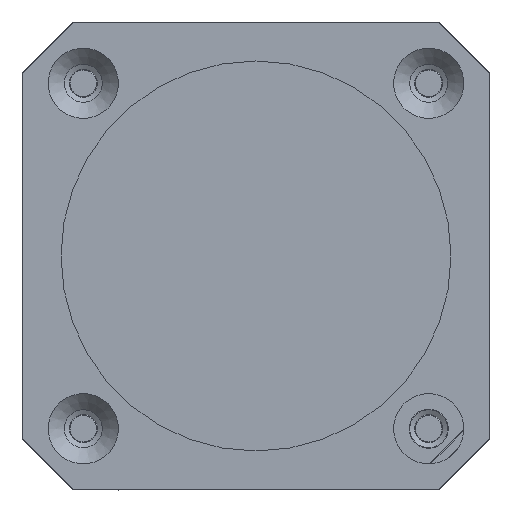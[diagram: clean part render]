
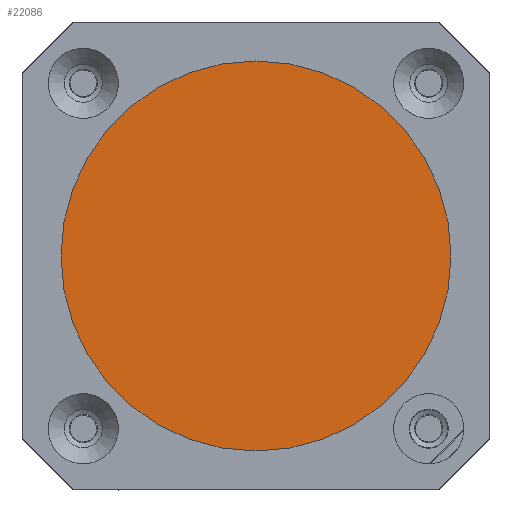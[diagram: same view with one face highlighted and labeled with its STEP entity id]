
A CAD part, front view. The second image highlights one B-rep face of the part: STEP entity #22086.
In plain terms, the highlighted planar face has unit normal (0, -1, 0) as drawn and (0, 0, -1) by its records, which use the part's own axes.
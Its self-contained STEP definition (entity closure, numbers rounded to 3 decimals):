
#895=CIRCLE('',#23804,17.5);
#2708=FACE_OUTER_BOUND('',#4138,.T.);
#4138=EDGE_LOOP('',(#15469));
#9706=VERTEX_POINT('',#34394);
#11798=EDGE_CURVE('',#9706,#9706,#895,.T.);
#15469=ORIENTED_EDGE('',*,*,#11798,.F.);
#21210=PLANE('',#23817);
#22086=ADVANCED_FACE('',(#2708),#21210,.T.);
#23804=AXIS2_PLACEMENT_3D('',#34395,#27096,#27097);
#23817=AXIS2_PLACEMENT_3D('',#34415,#27129,#27130);
#27096=DIRECTION('center_axis',(0.,0.,1.));
#27097=DIRECTION('ref_axis',(-0.809,0.588,0.));
#27129=DIRECTION('center_axis',(0.,0.,-1.));
#27130=DIRECTION('ref_axis',(0.,-1.,0.));
#34394=CARTESIAN_POINT('',(-17.5,0.,-33.2));
#34395=CARTESIAN_POINT('Origin',(0.,0.,
-33.2));
#34415=CARTESIAN_POINT('Origin',(0.,0.,-33.2));
